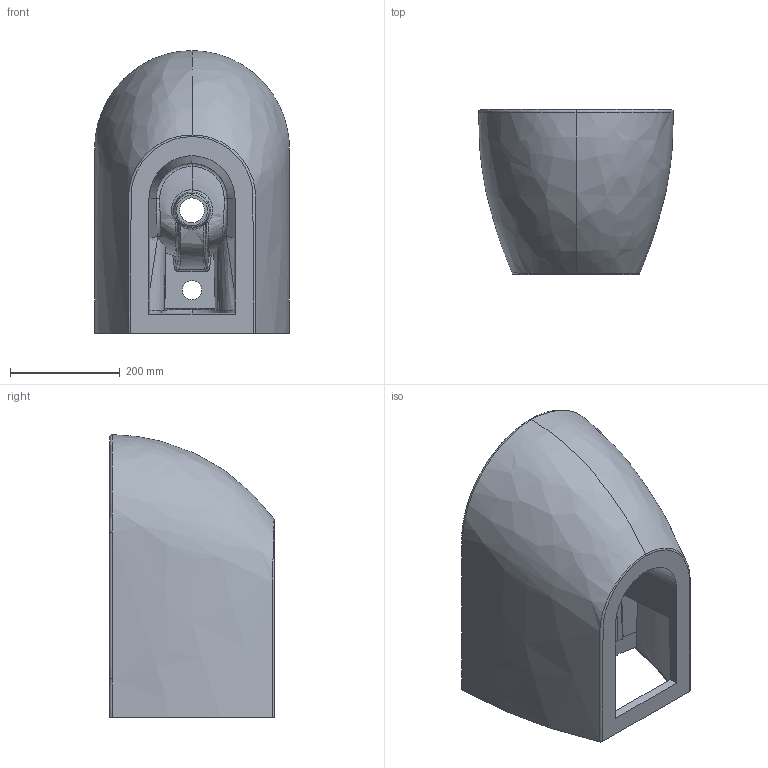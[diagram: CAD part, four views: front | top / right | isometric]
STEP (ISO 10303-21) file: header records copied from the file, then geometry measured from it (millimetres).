
FILE_DESCRIPTION (( 'STEP AP203' ), '1' );
FILE_NAME ('FE510.STEP', '2022-04-13T06:39:42', ( '' ), ( '' ), 'SwSTEP 2.0', 'SolidWorks 2021', '' );
FILE_SCHEMA (( 'CONFIG_CONTROL_DESIGN' ));
Length unit declared in the file: millimetre
Products named in the file (1): FE510
Bounding box: 355.14 x 300 x 514.97 mm (x, y, z)
Volume: 22890095.4 mm3; surface area: 950406 mm2
Topology: 2 solids, 2 shells, 161 faces, 459 edges, 305 vertices
Faces by surface type: bspline 90, plane 42, cylinder 21, torus 6, cone 2
Entity records: 71724 total; most frequent: CARTESIAN_POINT 68310, ORIENTED_EDGE 918, EDGE_CURVE 459, DIRECTION 364, VERTEX_POINT 305, B_SPLINE_CURVE_WITH_KNOTS 285, EDGE_LOOP 172, ADVANCED_FACE 161
